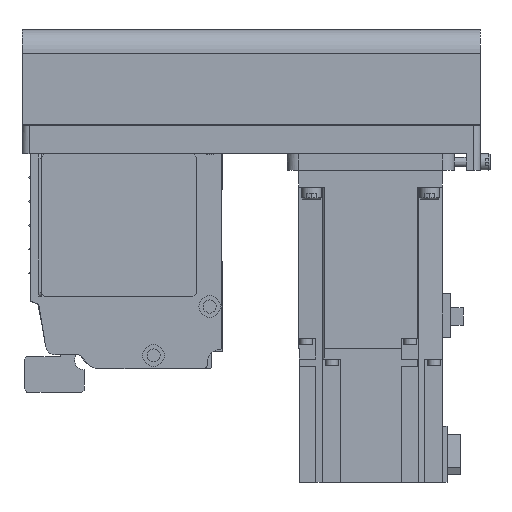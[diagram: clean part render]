
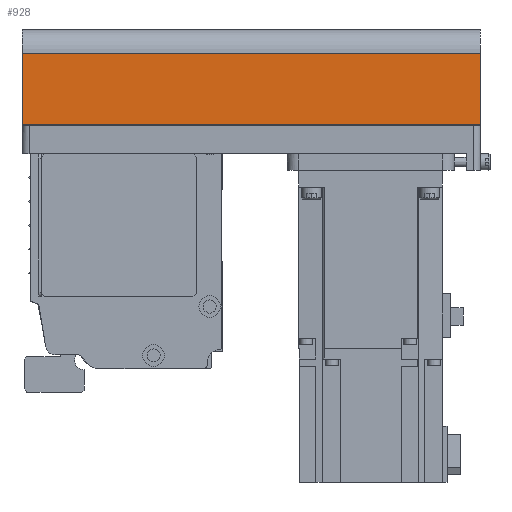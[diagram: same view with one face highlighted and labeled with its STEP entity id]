
A CAD part, left-side view. The second image highlights one B-rep face of the part: STEP entity #928.
In plain terms, the highlighted planar face has unit normal (-1, 0, 0) as drawn and (0, -1, 0) by its records, which use the part's own axes.
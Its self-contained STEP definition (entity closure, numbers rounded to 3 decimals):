
#928 = ADVANCED_FACE( '', ( #2463 ), #2464, .T. );
#2463 = FACE_OUTER_BOUND( '', #4855, .T. );
#2464 = PLANE( '', #4856 );
#4855 = EDGE_LOOP( '', ( #7363, #7364, #7365, #7366 ) );
#4856 = AXIS2_PLACEMENT_3D( '', #7367, #7368, #7369 );
#7363 = ORIENTED_EDGE( '', *, *, #13695, .F. );
#7364 = ORIENTED_EDGE( '', *, *, #13696, .F. );
#7365 = ORIENTED_EDGE( '', *, *, #13697, .T. );
#7366 = ORIENTED_EDGE( '', *, *, #13698, .T. );
#7367 = CARTESIAN_POINT( '', ( -192., -40., -12.1 ) );
#7368 = DIRECTION( '', ( 0., -1., 0. ) );
#7369 = DIRECTION( '', ( 0., 0., -1. ) );
#13695 = EDGE_CURVE( '', #16277, #16278, #16279, .T. );
#13696 = EDGE_CURVE( '', #16280, #16277, #16281, .T. );
#13697 = EDGE_CURVE( '', #16280, #16282, #16283, .T. );
#13698 = EDGE_CURVE( '', #16282, #16278, #16284, .T. );
#16277 = VERTEX_POINT( '', #20014 );
#16278 = VERTEX_POINT( '', #20015 );
#16279 = LINE( '', #20016, #20017 );
#16280 = VERTEX_POINT( '', #20018 );
#16281 = LINE( '', #20019, #20020 );
#16282 = VERTEX_POINT( '', #20021 );
#16283 = LINE( '', #20022, #20023 );
#16284 = LINE( '', #20024, #20025 );
#20014 = CARTESIAN_POINT( '', ( 0., -40., -12.1 ) );
#20015 = CARTESIAN_POINT( '', ( 0., -40., -42. ) );
#20016 = CARTESIAN_POINT( '', ( 0., -40., -12.1 ) );
#20017 = VECTOR( '', #24789, 1000. );
#20018 = CARTESIAN_POINT( '', ( -192., -40., -12.1 ) );
#20019 = CARTESIAN_POINT( '', ( -192., -40., -12.1 ) );
#20020 = VECTOR( '', #24790, 1000. );
#20021 = CARTESIAN_POINT( '', ( -192., -40., -42. ) );
#20022 = CARTESIAN_POINT( '', ( -192., -40., -12.1 ) );
#20023 = VECTOR( '', #24791, 1000. );
#20024 = CARTESIAN_POINT( '', ( -192., -40., -42. ) );
#20025 = VECTOR( '', #24792, 1000. );
#24789 = DIRECTION( '', ( 0., 0., -1. ) );
#24790 = DIRECTION( '', ( 1., 0., 0. ) );
#24791 = DIRECTION( '', ( 0., 0., -1. ) );
#24792 = DIRECTION( '', ( 1., 0., 0. ) );
